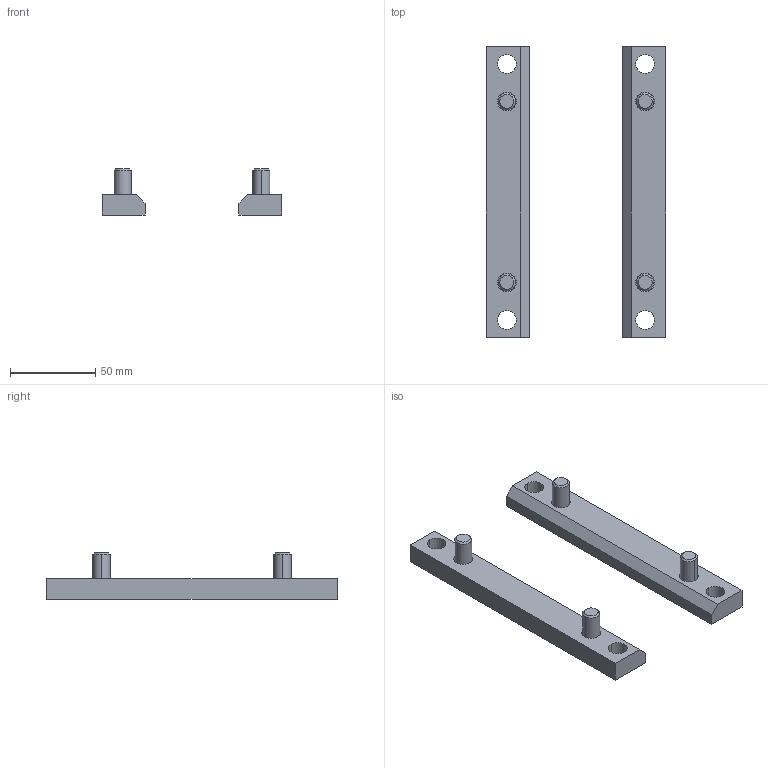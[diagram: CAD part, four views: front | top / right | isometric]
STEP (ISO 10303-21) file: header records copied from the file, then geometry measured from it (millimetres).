
FILE_DESCRIPTION (( 'STEP AP203' ), '1' );
FILE_NAME ('MJ3-BL.STEP', '2024-01-16T10:23:09', ( '' ), ( '' ), 'SwSTEP 2.0', 'SolidWorks 2022', '' );
FILE_SCHEMA (( 'CONFIG_CONTROL_DESIGN' ));
Length unit declared in the file: millimetre
Products named in the file (1): MJ3-BL
Bounding box: 105 x 170 x 27 mm (x, y, z)
Volume: 94260.6 mm3; surface area: 33372.1 mm2
Topology: 6 solids, 6 shells, 126 faces, 310 edges, 200 vertices
Faces by surface type: plane 54, cylinder 40, torus 16, cone 16
Entity records: 3777 total; most frequent: CARTESIAN_POINT 693, DIRECTION 660, ORIENTED_EDGE 604, EDGE_CURVE 302, AXIS2_PLACEMENT_3D 263, VERTEX_POINT 200, EDGE_LOOP 154, CIRCLE 136
